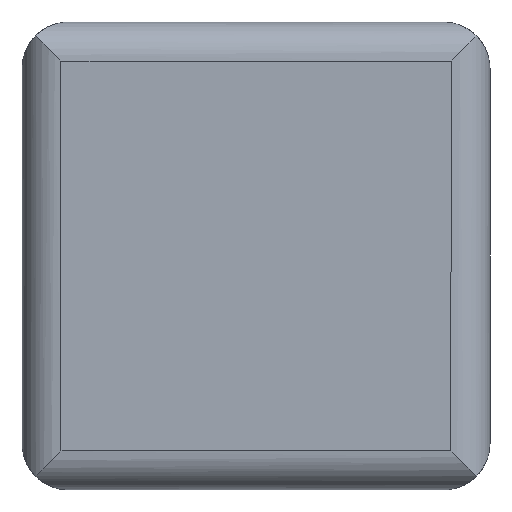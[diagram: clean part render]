
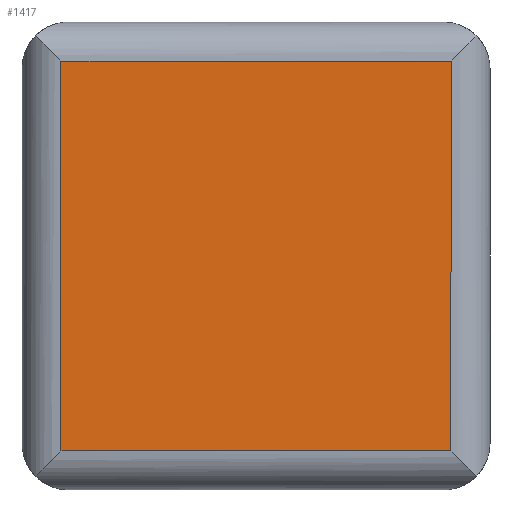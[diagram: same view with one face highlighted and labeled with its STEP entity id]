
A CAD part, front view. The second image highlights one B-rep face of the part: STEP entity #1417.
In plain terms, the highlighted planar face has unit normal (0, -1, 0).
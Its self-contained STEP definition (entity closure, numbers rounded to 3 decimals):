
#670 = CYLINDRICAL_SURFACE('',#671,2.5);
#671 = AXIS2_PLACEMENT_3D('',#672,#673,#674);
#672 = CARTESIAN_POINT('',(15.,-1.5,
    -12.5));
#673 = DIRECTION('',(-1.,0.,0.));
#674 = DIRECTION('',(0.,0.,1.));
#749 = CYLINDRICAL_SURFACE('',#750,2.5);
#750 = AXIS2_PLACEMENT_3D('',#751,#752,#753);
#751 = CARTESIAN_POINT('',(-12.5,-1.5,
    15.));
#752 = DIRECTION('',(0.,0.,-1.));
#753 = DIRECTION('',(-1.,0.,0.));
#895 = CYLINDRICAL_SURFACE('',#896,2.5);
#896 = AXIS2_PLACEMENT_3D('',#897,#898,#899);
#897 = CARTESIAN_POINT('',(12.5,-1.5,
    15.));
#898 = DIRECTION('',(0.,0.,-1.));
#899 = DIRECTION('',(-1.,0.,0.));
#1073 = CYLINDRICAL_SURFACE('',#1074,2.5);
#1074 = AXIS2_PLACEMENT_3D('',#1075,#1076,#1077);
#1075 = CARTESIAN_POINT('',(15.,-1.5,12.5));
#1076 = DIRECTION('',(-1.,0.,0.));
#1077 = DIRECTION('',(0.,0.,1.));
#1417 = ADVANCED_FACE('',(#1418),#1432,.F.);
#1418 = FACE_BOUND('',#1419,.T.);
#1419 = EDGE_LOOP('',(#1420,#1450,#1473,#1496));
#1420 = ORIENTED_EDGE('',*,*,#1421,.F.);
#1421 = EDGE_CURVE('',#1422,#1424,#1426,.T.);
#1422 = VERTEX_POINT('',#1423);
#1423 = CARTESIAN_POINT('',(12.5,-4.,12.5));
#1424 = VERTEX_POINT('',#1425);
#1425 = CARTESIAN_POINT('',(12.5,-4.,-12.5));
#1426 = SURFACE_CURVE('',#1427,(#1431,#1443),.PCURVE_S1.);
#1427 = LINE('',#1428,#1429);
#1428 = CARTESIAN_POINT('',(12.5,-4.,
    15.));
#1429 = VECTOR('',#1430,1.);
#1430 = DIRECTION('',(0.,0.,-1.));
#1431 = PCURVE('',#1432,#1437);
#1432 = PLANE('',#1433);
#1433 = AXIS2_PLACEMENT_3D('',#1434,#1435,#1436);
#1434 = CARTESIAN_POINT('',(-12.,-4.,-12.));
#1435 = DIRECTION('',(0.,1.,0.));
#1436 = DIRECTION('',(0.,0.,1.));
#1437 = DEFINITIONAL_REPRESENTATION('',(#1438),#1442);
#1438 = LINE('',#1439,#1440);
#1439 = CARTESIAN_POINT('',(27.,24.5));
#1440 = VECTOR('',#1441,1.);
#1441 = DIRECTION('',(-1.,0.));
#1442 = ( GEOMETRIC_REPRESENTATION_CONTEXT(2) 
PARAMETRIC_REPRESENTATION_CONTEXT() REPRESENTATION_CONTEXT('2D SPACE',''
  ) );
#1443 = PCURVE('',#895,#1444);
#1444 = DEFINITIONAL_REPRESENTATION('',(#1445),#1449);
#1445 = LINE('',#1446,#1447);
#1446 = CARTESIAN_POINT('',(4.712,0.));
#1447 = VECTOR('',#1448,1.);
#1448 = DIRECTION('',(0.,1.));
#1449 = ( GEOMETRIC_REPRESENTATION_CONTEXT(2) 
PARAMETRIC_REPRESENTATION_CONTEXT() REPRESENTATION_CONTEXT('2D SPACE',''
  ) );
#1450 = ORIENTED_EDGE('',*,*,#1451,.T.);
#1451 = EDGE_CURVE('',#1422,#1452,#1454,.T.);
#1452 = VERTEX_POINT('',#1453);
#1453 = CARTESIAN_POINT('',(-12.5,-4.,12.5));
#1454 = SURFACE_CURVE('',#1455,(#1459,#1466),.PCURVE_S1.);
#1455 = LINE('',#1456,#1457);
#1456 = CARTESIAN_POINT('',(15.,-4.,12.5));
#1457 = VECTOR('',#1458,1.);
#1458 = DIRECTION('',(-1.,0.,0.));
#1459 = PCURVE('',#1432,#1460);
#1460 = DEFINITIONAL_REPRESENTATION('',(#1461),#1465);
#1461 = LINE('',#1462,#1463);
#1462 = CARTESIAN_POINT('',(24.5,27.));
#1463 = VECTOR('',#1464,1.);
#1464 = DIRECTION('',(0.,-1.));
#1465 = ( GEOMETRIC_REPRESENTATION_CONTEXT(2) 
PARAMETRIC_REPRESENTATION_CONTEXT() REPRESENTATION_CONTEXT('2D SPACE',''
  ) );
#1466 = PCURVE('',#1073,#1467);
#1467 = DEFINITIONAL_REPRESENTATION('',(#1468),#1472);
#1468 = LINE('',#1469,#1470);
#1469 = CARTESIAN_POINT('',(4.712,0.));
#1470 = VECTOR('',#1471,1.);
#1471 = DIRECTION('',(0.,1.));
#1472 = ( GEOMETRIC_REPRESENTATION_CONTEXT(2) 
PARAMETRIC_REPRESENTATION_CONTEXT() REPRESENTATION_CONTEXT('2D SPACE',''
  ) );
#1473 = ORIENTED_EDGE('',*,*,#1474,.T.);
#1474 = EDGE_CURVE('',#1452,#1475,#1477,.T.);
#1475 = VERTEX_POINT('',#1476);
#1476 = CARTESIAN_POINT('',(-12.5,-4.,-12.5));
#1477 = SURFACE_CURVE('',#1478,(#1482,#1489),.PCURVE_S1.);
#1478 = LINE('',#1479,#1480);
#1479 = CARTESIAN_POINT('',(-12.5,-4.,15.));
#1480 = VECTOR('',#1481,1.);
#1481 = DIRECTION('',(0.,0.,-1.));
#1482 = PCURVE('',#1432,#1483);
#1483 = DEFINITIONAL_REPRESENTATION('',(#1484),#1488);
#1484 = LINE('',#1485,#1486);
#1485 = CARTESIAN_POINT('',(27.,-0.5));
#1486 = VECTOR('',#1487,1.);
#1487 = DIRECTION('',(-1.,0.));
#1488 = ( GEOMETRIC_REPRESENTATION_CONTEXT(2) 
PARAMETRIC_REPRESENTATION_CONTEXT() REPRESENTATION_CONTEXT('2D SPACE',''
  ) );
#1489 = PCURVE('',#749,#1490);
#1490 = DEFINITIONAL_REPRESENTATION('',(#1491),#1495);
#1491 = LINE('',#1492,#1493);
#1492 = CARTESIAN_POINT('',(4.712,0.));
#1493 = VECTOR('',#1494,1.);
#1494 = DIRECTION('',(0.,1.));
#1495 = ( GEOMETRIC_REPRESENTATION_CONTEXT(2) 
PARAMETRIC_REPRESENTATION_CONTEXT() REPRESENTATION_CONTEXT('2D SPACE',''
  ) );
#1496 = ORIENTED_EDGE('',*,*,#1497,.F.);
#1497 = EDGE_CURVE('',#1424,#1475,#1498,.T.);
#1498 = SURFACE_CURVE('',#1499,(#1503,#1510),.PCURVE_S1.);
#1499 = LINE('',#1500,#1501);
#1500 = CARTESIAN_POINT('',(15.,-4.,
    -12.5));
#1501 = VECTOR('',#1502,1.);
#1502 = DIRECTION('',(-1.,0.,0.));
#1503 = PCURVE('',#1432,#1504);
#1504 = DEFINITIONAL_REPRESENTATION('',(#1505),#1509);
#1505 = LINE('',#1506,#1507);
#1506 = CARTESIAN_POINT('',(-0.5,27.));
#1507 = VECTOR('',#1508,1.);
#1508 = DIRECTION('',(0.,-1.));
#1509 = ( GEOMETRIC_REPRESENTATION_CONTEXT(2) 
PARAMETRIC_REPRESENTATION_CONTEXT() REPRESENTATION_CONTEXT('2D SPACE',''
  ) );
#1510 = PCURVE('',#670,#1511);
#1511 = DEFINITIONAL_REPRESENTATION('',(#1512),#1516);
#1512 = LINE('',#1513,#1514);
#1513 = CARTESIAN_POINT('',(4.712,0.));
#1514 = VECTOR('',#1515,1.);
#1515 = DIRECTION('',(0.,1.));
#1516 = ( GEOMETRIC_REPRESENTATION_CONTEXT(2) 
PARAMETRIC_REPRESENTATION_CONTEXT() REPRESENTATION_CONTEXT('2D SPACE',''
  ) );
